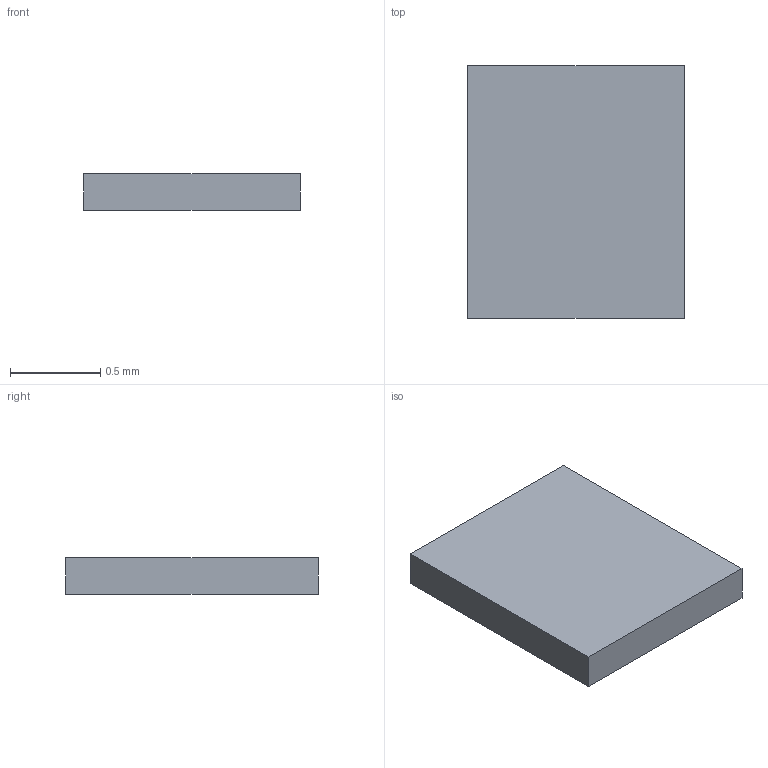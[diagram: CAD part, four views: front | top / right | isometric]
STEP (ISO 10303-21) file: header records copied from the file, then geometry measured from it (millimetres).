
FILE_DESCRIPTION(/* description */ (''),/* implementation_level */ '2;1');
FILE_NAME(/* name */ 'C27_R2_Mic_Front_Seat_1.step',/* time_stamp */ '2026-09-10T17:49:13-07:00',/* author */ (''),/* organization */ (''),/* preprocessor_version */ 'ST-DEVELOPER v20.1',/* originating_system */ 'Autodesk Translation Framework v15.8.0.0',/* authorisation */ '');
FILE_SCHEMA (('AUTOMOTIVE_DESIGN { 1 0 10303 214 3 1 1 }'));
Length unit declared in the file: millimetre
Products named in the file (1): 2026-09-10-17-49-13-813
Bounding box: 1.2 x 1.4 x 0.2 mm (x, y, z)
Volume: 0.3 mm3; surface area: 4.4 mm2
Topology: 1 solids, 1 shells, 6 faces, 12 edges, 8 vertices
Faces by surface type: plane 6
Entity records: 189 total; most frequent: CARTESIAN_POINT 27, DIRECTION 26, ORIENTED_EDGE 24, LINE 12, VECTOR 12, EDGE_CURVE 12, VERTEX_POINT 8, AXIS2_PLACEMENT_3D 7
